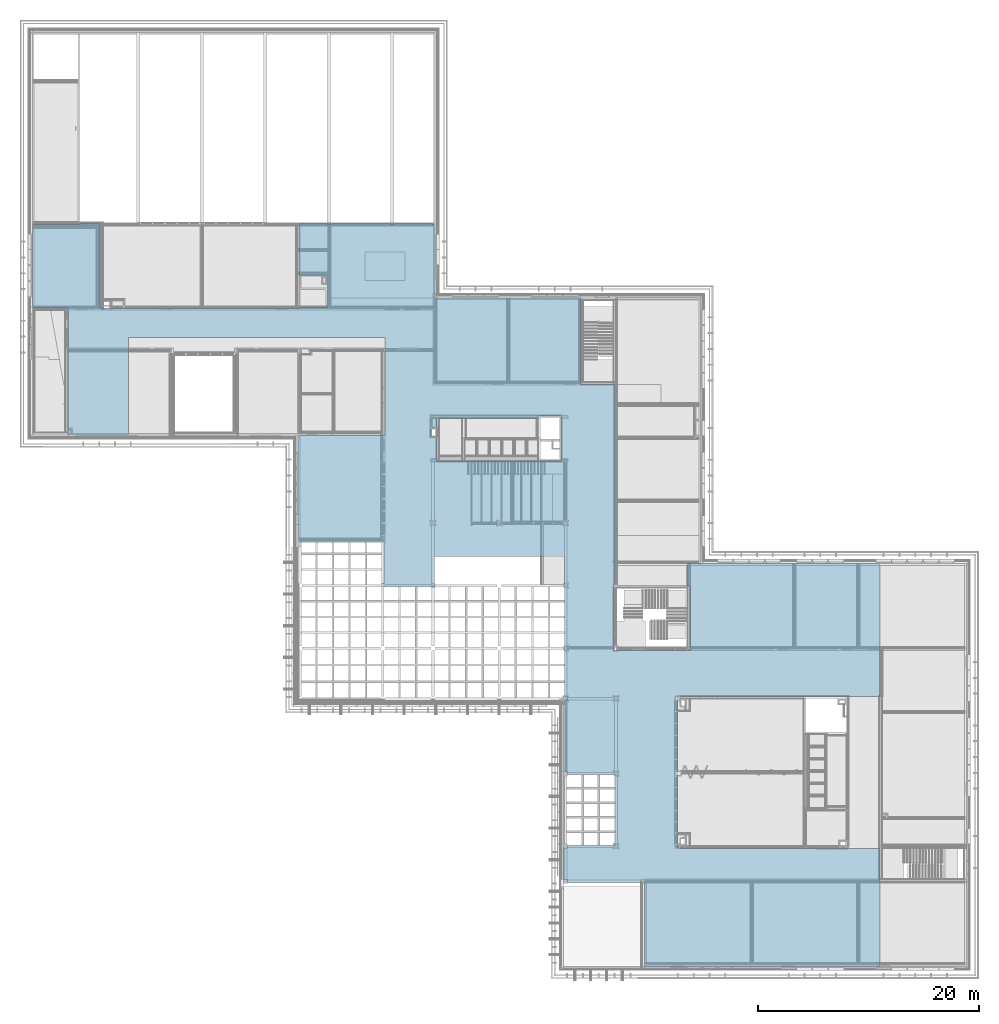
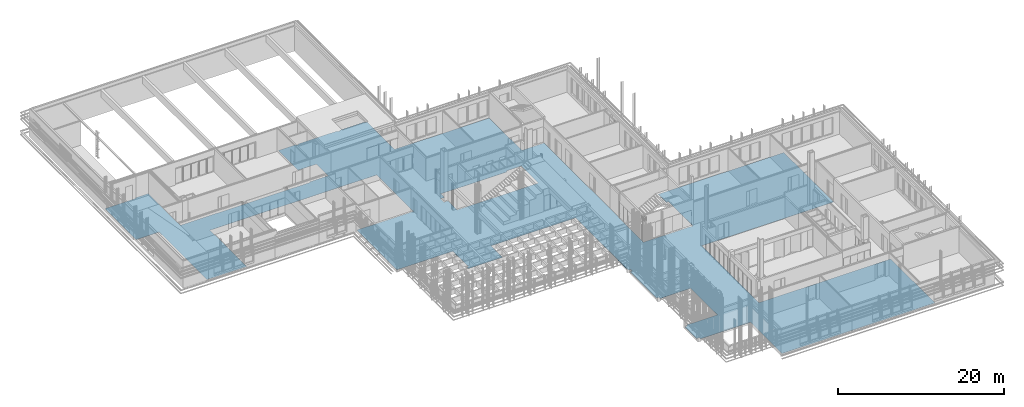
# One storey, part 91 of 139: 1 building element part, 7 openings, 1 element without a shape of its own.
"""IFC2X3 building model written with IfcOpenShell, lengths in millimetres."""

from ifc_helpers import new_model, entity, si_unit, converted_unit, derived_unit, money_unit, direction, frame, origin_with_axes, place, context, subcontext, project, spatial, faceted_brep, material, type_object, element, aggregate, save


model = new_model("IFC2X3")

# Units and contexts
model_context = context("Model", 3, precision=0.01, world=origin_with_axes(), true_north=direction((0.0, 1.0)))
body_context = subcontext(model_context, "Body", "Model", "MODEL_VIEW")
ifc_project = project(units=[si_unit("LENGTHUNIT", "METRE", prefix="MILLI"), si_unit("AREAUNIT", "SQUARE_METRE"), si_unit("VOLUMEUNIT", "CUBIC_METRE"), converted_unit("PLANEANGLEUNIT", "DEGREE", entity("IfcPlaneAngleMeasure", 0.0174532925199), si_unit("PLANEANGLEUNIT", "RADIAN"), dimensions=[0, 0, 0, 0, 0, 0, 0]), money_unit("EUR"), converted_unit("TIMEUNIT", "Year", entity("IfcTimeMeasure", 31556926.0), si_unit("TIMEUNIT", "SECOND"), dimensions=[0, 0, 1, 0, 0, 0, 0]), si_unit("MASSUNIT", "GRAM", prefix="KILO"), si_unit("THERMODYNAMICTEMPERATUREUNIT", "DEGREE_CELSIUS"), si_unit("LUMINOUSINTENSITYUNIT", "LUMEN"), si_unit("ENERGYUNIT", "JOULE", prefix="MEGA"), derived_unit("THERMALCONDUCTANCEUNIT", [(si_unit("POWERUNIT", "WATT"), 1), (si_unit("LENGTHUNIT", "METRE"), -1), (si_unit("THERMODYNAMICTEMPERATUREUNIT", "KELVIN"), -1)]), derived_unit("SPECIFICHEATCAPACITYUNIT", [(si_unit("ENERGYUNIT", "JOULE"), 1), (si_unit("MASSUNIT", "GRAM", prefix="KILO"), -1), (si_unit("THERMODYNAMICTEMPERATUREUNIT", "KELVIN"), -1)]), derived_unit("MASSDENSITYUNIT", [(si_unit("MASSUNIT", "GRAM", prefix="KILO"), 1), (si_unit("VOLUMEUNIT", "CUBIC_METRE"), -1)])], contexts=[model_context])

# Site, building, storey
site_placement = place(None, origin_with_axes())
site = spatial("IfcSite", under=ifc_project, at=site_placement, Name="Kolde pst 67a", CompositionType="ELEMENT")
building_placement = place(site_placement, origin_with_axes())
building = spatial("IfcBuilding", under=site, at=building_placement, Name="Riigigümnaasium", CompositionType="ELEMENT")
storey_placement = place(building_placement, frame((0.0, 0.0, 4600.0), z_axis=(0.0, 0.0, 1.0), x_axis=(1.0, 0.0, 0.0)))
storey = spatial("IfcBuildingStorey", under=building, at=storey_placement, Name="2. korrus", CompositionType="ELEMENT", Elevation=4600.0)

# Slab, openings, building element part
slab_type = type_object("IfcSlabType", Name="VL-CLT-28/1_PVC kate 430", PredefinedType="NOTDEFINED")
slab_placement = place(storey_placement, frame((39.9563582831, 59549.9979567, 0.0), z_axis=(0.0, 0.0, 1.0), x_axis=(1.0, 0.0, 0.0)))
slab = element("IfcSlab", 1, at=slab_placement, inside=storey, type_object=slab_type, Name="VAHELAGI", PredefinedType="NOTDEFINED")
opening_1_placement = place(slab_placement, frame((-39.9563582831, -59549.9979567, -4600.0), z_axis=(0.0, 0.0, 1.0), x_axis=(1.0, 0.0, 0.0)))
element("IfcOpeningElement", 2, at=opening_1_placement, cuts=slab, Name="Šaht", ObjectType="OPENING", context=body_context, shape_type="Brep", body=[
    faceted_brep([(45774.9854607, 45669.9999598, 12550.0), (45774.9854607, 47471.3382495, 12550.0), (45774.9854607, 47471.3382495, -50.0), (45774.9854607, 45669.9999598, -50.0), (47874.9854607, 45669.9999598, 12550.0), (47874.9854607, 47471.3382495, 12550.0), (47874.9854607, 47471.3382495, -50.0), (47874.9854607, 45669.9999598, -50.0)], [[[0, 1, 2, 3]], [[0, 4, 5, 1]], [[1, 5, 6, 2]], [[3, 2, 6, 7]], [[4, 0, 3, 7]], [[5, 4, 7, 6]]]),
])
opening_2_placement = place(slab_placement, frame((-39.9563582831, -59549.9979567, -4600.0), z_axis=(0.0, 0.0, 1.0), x_axis=(1.0, 0.0, 0.0)))
element("IfcOpeningElement", 3, at=opening_2_placement, cuts=slab, Name="Šaht", ObjectType="OPENING", context=body_context, shape_type="Brep", body=[
    faceted_brep([(45774.9854607, 47471.3382495, 12550.0), (45774.9854607, 49769.9999599, 12550.0), (45774.9854607, 49769.9999599, -50.0), (45774.9854607, 47471.3382495, -50.0), (47874.9854607, 47471.3382495, 12550.0), (47874.9854607, 49769.9999599, 12550.0), (47874.9854607, 49769.9999599, -50.0), (47874.9854607, 47471.3382495, -50.0)], [[[0, 1, 2, 3]], [[0, 4, 5, 1]], [[1, 5, 6, 2]], [[3, 2, 6, 7]], [[4, 0, 3, 7]], [[5, 4, 7, 6]]]),
])
opening_3_placement = place(slab_placement, frame((-39.9563582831, -59549.9979567, -4600.0), z_axis=(0.0, 0.0, 1.0), x_axis=(1.0, 0.0, 0.0)))
element("IfcOpeningElement", 4, at=opening_3_placement, cuts=slab, Name="Õhuruum", ObjectType="OPENING", context=body_context, shape_type="Brep", body=[
    faceted_brep([(47799.9854892, 10979.9999742, 5050.0), (47799.9854892, 17369.9999742, 5050.0), (47799.9854892, 17369.9999742, 3700.0), (47799.9854892, 10979.9999742, 3700.0), (52699.9854892, 10979.9999742, 5050.0), (52699.9854892, 17369.9999742, 5050.0), (52699.9854892, 17369.9999742, 3700.0), (52699.9854892, 10979.9999742, 3700.0)], [[[0, 1, 2, 3]], [[0, 4, 5, 1]], [[1, 5, 6, 2]], [[3, 2, 6, 7]], [[4, 0, 3, 7]], [[5, 4, 7, 6]]]),
])
opening_4_placement = place(slab_placement, frame((-39.9563582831, -59549.9979567, -4600.0), z_axis=(0.0, 0.0, 1.0), x_axis=(1.0, 0.0, 0.0)))
element("IfcOpeningElement", 5, at=opening_4_placement, cuts=slab, Name="Šaht", ObjectType="OPENING", context=body_context, shape_type="Brep", body=[
    faceted_brep([(32549.1365803, 31079.999196, -50.0), (32549.1365803, 31579.9999486, -50.0), (32549.1365803, 31579.9999486, 12550.0), (32549.1365803, 31079.999196, 12550.0), (31940.0027776, 31079.999196, -50.0), (31940.0027776, 31579.9999486, -50.0), (31940.0027776, 31579.9999486, 12550.0), (31940.0027776, 31079.999196, 12550.0)], [[[0, 1, 2, 3]], [[0, 4, 5, 1]], [[1, 5, 6, 2]], [[3, 2, 6, 7]], [[4, 0, 3, 7]], [[5, 4, 7, 6]]]),
])
opening_5_placement = place(slab_placement, frame((-39.9563582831, -59549.9979567, -4600.0), z_axis=(0.0, 0.0, 1.0), x_axis=(1.0, 0.0, 0.0)))
element("IfcOpeningElement", 6, at=opening_5_placement, cuts=slab, Name="Šaht", ObjectType="OPENING", context=body_context, shape_type="Brep", body=[
    faceted_brep([(36054.99923, 47865.0003336, 12673.7250489), (36054.99923, 48680.0003365, 12673.7250489), (36054.99923, 48680.0003365, -50.0), (36054.99923, 47865.0003336, -50.0), (36604.99923, 47865.0003336, 12673.7250489), (36604.99923, 48680.0003365, 12673.7250489), (36604.99923, 48680.0003365, -50.0), (36604.99923, 47865.0003336, -50.0)], [[[0, 1, 2, 3]], [[0, 4, 5, 1]], [[1, 5, 6, 2]], [[3, 2, 6, 7]], [[4, 0, 3, 7]], [[5, 4, 7, 6]]]),
])
opening_6_placement = place(slab_placement, frame((-39.9563582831, -59549.9979567, -4600.0), z_axis=(0.0, 0.0, 1.0), x_axis=(1.0, 0.0, 0.0)))
element("IfcOpeningElement", 7, at=opening_6_placement, cuts=slab, Name="Šaht", ObjectType="OPENING", context=body_context, shape_type="Brep", body=[
    faceted_brep([(24200.0027342, 59624.9979478, 5050.0), (24200.0027342, 62421.1829534, 5050.0), (24200.0027342, 62421.1829534, 3700.0), (24200.0027342, 59624.9979478, 3700.0), (26729.99923, 59624.9979478, 5050.0), (26729.99923, 62421.1829534, 5050.0), (26729.99923, 62421.1829534, 3700.0), (26729.99923, 59624.9979478, 3700.0)], [[[0, 1, 2, 3]], [[0, 4, 5, 1]], [[1, 5, 6, 2]], [[3, 2, 6, 7]], [[4, 0, 3, 7]], [[5, 4, 7, 6]]]),
])
opening_7_placement = place(slab_placement, frame((-39.9563582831, -59549.9979567, -4600.0), z_axis=(0.0, 0.0, 1.0), x_axis=(1.0, 0.0, 0.0)))
element("IfcOpeningElement", 8, at=opening_7_placement, cuts=slab, Name="Šaht", ObjectType="OPENING", context=body_context, shape_type="Brep", body=[
    faceted_brep([(42369.99923, 30974.9992219, -50.0), (42869.9999826, 30974.9992219, -50.0), (42869.9999826, 30974.9992219, 12550.0), (42369.99923, 30974.9992219, 12550.0), (42369.99923, 31579.999976, -50.0), (42869.9999826, 31579.999976, -50.0), (42869.9999826, 31579.999976, 12550.0), (42369.99923, 31579.999976, 12550.0)], [[[0, 1, 2, 3]], [[0, 4, 5, 1]], [[1, 5, 6, 2]], [[3, 2, 6, 7]], [[4, 0, 3, 7]], [[5, 4, 7, 6]]]),
])
ifc_material = material(Name="_SOOJUSTUS - vahtpolüstüreenplaadid EPS 80, survetugevus min 80kPa, soojuserijuhtivus λD<0,038 W/(mK)")
building_element_part_placement = place(slab_placement, origin_with_axes())
building_element_part = element("IfcBuildingElementPart", 9, at=building_element_part_placement, material=ifc_material, Name="_SOOJUSTUS - vahtpolüstüreenplaadid EPS 80, survetugevus min 80kPa, soojuserijuhtivus λD<0,038 W/(mK)", context=body_context, shape_type="Brep", body=[
    faceted_brep([(31780.0464203, -21190.01713, -130.0), (31542.0451688, -21190.01713, -130.0), (31542.0424096, -21190.01713, -149.364167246), (31542.0451688, -21190.01713, -150.0), (31780.0464203, -21190.01713, -150.0), (31542.0451963, -21150.0171312, -130.0), (31780.0464203, -24920.0028824, -130.0), (31542.042604, -24920.0028824, -130.0), (31542.0423908, -25229.9979567, -130.0), (36330.0428742, -25229.9979567, -130.0), (36330.0428742, -22459.0940537, -130.0), (48070.0039964, -22459.0596283, -130.0), (48070.0411517, -35130.001422, -130.0), (48380.0291024, -35130.001422, -130.0), (48380.0291024, -35510.001422, -130.0), (48070.0577274, -35510.0023309, -130.0), (48070.0200361, -41899.998263, -130.0), (48380.0242121, -41899.998263, -130.0), (48380.0242121, -42179.9979825, -130.0), (52660.0291309, -42179.9979825, -130.0), (52660.0291309, -48569.9979825, -130.0), (48380.0291408, -48569.9979825, -130.0), (48380.0291408, -48840.0359831, -130.0), (48000.0291384, -48840.0359831, -130.0), (48000.0291215, -51649.9979567, -130.0), (48380.0242229, -51649.9979567, -130.0), (48380.0242229, -51930.0079393, -130.0), (55330.024936, -51929.8434959, -130.0), (55330.0548244, -59509.9979567, -130.0), (76581.1490373, -59509.9979567, -130.0), (76579.986647, -48850.6574612, -130.0), (69910.0428548, -48850.036016, -130.0), (69910.0428548, -48860.036016, -130.0), (58289.9925184, -48860.036016, -130.0), (58289.9925184, -35109.997984, -130.0), (76610.0457048, -35109.997984, -130.0), (76610.0457048, -23109.998257, -130.0), (59150.0568692, -23109.998257, -130.0), (59150.0568692, -25099.997961, -130.0), (59440.0568692, -25099.997961, -130.0), (59440.0568692, -30959.998257, -130.0), (55335.0377659, -30959.998257, -130.0), (55335.0377659, -30929.9983007, -130.0), (52579.0377639, -30929.9983007, -130.0), (52579.0377639, -24909.9979838, -130.0), (52640.0377772, -24909.9979838, -130.0), (52640.0377641, -6939.99778428, -130.0), (49550.0536973, -6939.99777257, -130.0), (49550.0536971, 890.002227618, -130.0), (36400.0428717, 890.002227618, -130.0), (36400.0427438, 7539.99993167, -130.0), (36080.0427438, 7539.99993167, -130.0), (36080.0427438, 7659.99379268, -130.0), (32670.0436417, 7659.99436836, -130.0), (32670.0436417, 7539.98287716, -130.0), (32350.0436417, 7539.98287716, -130.0), (32350.0436417, 7659.99442238, -130.0), (26940.0436417, 7659.9953357, -130.0), (26940.0436417, 7539.98287716, -130.0), (26620.0436417, 7539.98287716, -130.0), (26620.0436417, 7659.99538972, -130.0), (24160.0463759, 7659.99580502, -130.0), (24160.0463759, 2871.18499669, -130.0), (26690.0428717, 2871.18499669, -130.0), (26690.0428717, 74.9999911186, -130.0), (24160.0463759, 74.9999911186, -130.0), (24160.0463759, -40.0001245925, -130.0), (6120.04156233, -40.0001245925, -130.0), (6120.04156233, 7659.99885053, -130.0), (4300.04314163, 7659.99915778, -130.0), (4300.04314163, 7539.99919467, -130.0), (4127.54314142, 7539.99919467, -130.0), (0.0, 7539.99919465, -130.0), (0.0, 0.0, -130.0), (3209.98406573, -8.63914806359e-06, -130.0), (3209.98405866, -11509.9854449, -130.0), (8715.03681619, -11509.9854449, -130.0), (8715.03681619, -2710.46285648, -130.0), (31850.0464212, -2710.46285648, -130.0), (31850.0464212, -11510.0171259, -130.0), (24000.0463759, -11510.0171259, -130.0), (24000.0463759, -21150.0171229, -130.0), (47835.0291024, -9779.99799688, -130.0), (47835.0291024, -13879.9979969, -130.0), (45735.0291024, -13879.9979969, -130.0), (36565.0428717, -13879.9979969, -130.0), (36565.0428717, -11684.9976232, -130.0), (36015.0428717, -11684.9976232, -130.0), (36015.0428717, -10869.9976202, -130.0), (36565.0428717, -10869.9976202, -130.0), (36565.0428717, -9994.99799688, -130.0), (45735.0291024, -9994.99799688, -130.0), (45735.0291024, -9779.99799688, -130.0), (31542.0451963, -21150.0171312, -150.0), (31542.042604, -24920.0028824, -150.0), (31780.0464203, -24920.0028824, -150.0), (24000.0463759, -21150.0171229, -150.0), (24000.0463759, -11510.0171259, -150.0), (31850.0464212, -11510.0171259, -150.0), (31850.0464212, -2710.46285648, -150.0), (8715.03681619, -2710.46285648, -150.0), (8715.03681619, -11509.9854449, -150.0), (3209.98405866, -11509.9854449, -150.0), (3209.98406573, -8.63914806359e-06, -150.0), (0.0, 0.0, -150.0), (0.0, 7539.99919465, -150.0), (4127.54314142, 7539.99919467, -150.0), (4300.04314163, 7539.99919467, -150.0), (4300.04314163, 7659.99915778, -150.0), (6120.04156233, 7659.99885053, -150.0), (6120.04156233, -40.0001245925, -150.0), (24160.0463759, -40.0001245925, -150.0), (24160.0463759, 74.9999911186, -150.0), (26690.0428717, 74.9999911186, -150.0), (26690.0428717, 2871.18499669, -150.0), (24160.0463759, 2871.18499669, -150.0), (24160.0463759, 7659.99580502, -150.0), (26620.0436417, 7659.99538972, -150.0), (26620.0436417, 7539.98287716, -150.0), (26940.0436417, 7539.98287716, -150.0), (26940.0436417, 7659.9953357, -150.0), (32350.0436417, 7659.99442238, -150.0), (32350.0436417, 7539.98287716, -150.0), (32670.0436417, 7539.98287716, -150.0), (32670.0436417, 7659.99436836, -150.0), (36080.0427438, 7659.99379268, -150.0), (36080.0427438, 7539.99993167, -150.0), (36400.0427438, 7539.99993167, -150.0), (36400.0428717, 890.002227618, -150.0), (49550.0536971, 890.002227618, -150.0), (49550.0536973, -6939.99777257, -150.0), (52640.0377641, -6939.99778428, -150.0), (52640.0377772, -24909.9979838, -150.0), (52579.0377639, -24909.9979838, -150.0), (52579.0377639, -30929.9983007, -150.0), (55335.0377659, -30929.9983007, -150.0), (55335.0377659, -30959.998257, -150.0), (59440.0568692, -30959.998257, -150.0), (59440.0568692, -25099.997961, -150.0), (59150.0568692, -25099.997961, -150.0), (59150.0568692, -23109.998257, -150.0), (76610.0457048, -23109.998257, -150.0), (76610.0457048, -35109.997984, -150.0), (58289.9925184, -35109.997984, -150.0), (58289.9925184, -48860.036016, -150.0), (69910.0428548, -48860.036016, -150.0), (69910.0428548, -48850.036016, -150.0), (76579.986647, -48850.6574612, -150.0), (76581.1490373, -59509.9979567, -150.0), (55330.0548244, -59509.9979567, -150.0), (55330.024936, -51929.8434959, -150.0), (48380.0242229, -51930.0079393, -150.0), (48380.0242229, -51649.9979567, -150.0), (48000.0291215, -51649.9979567, -150.0), (48000.0291384, -48840.0359831, -150.0), (48380.0291408, -48840.0359831, -150.0), (48380.0291408, -48569.9979825, -150.0), (52660.0291309, -48569.9979825, -150.0), (52660.0291309, -42179.9979825, -150.0), (48380.0242121, -42179.9979825, -150.0), (48380.0242121, -41899.998263, -150.0), (48070.0200361, -41899.998263, -150.0), (48070.0577274, -35510.0023309, -150.0), (48380.0291024, -35510.001422, -150.0), (48380.0291024, -35130.001422, -150.0), (48070.0411517, -35130.001422, -150.0), (48070.0039964, -22459.0596283, -150.0), (36330.0428742, -22459.0940537, -150.0), (36330.0428742, -25229.9979567, -150.0), (31542.0423908, -25229.9979567, -150.0), (45735.0291024, -9779.99799688, -150.0), (45735.0291024, -9994.99799688, -150.0), (36565.0428717, -9994.99799688, -150.0), (36565.0428717, -10869.9976202, -150.0), (36015.0428717, -10869.9976202, -150.0), (36015.0428717, -11684.9976232, -150.0), (36565.0428717, -11684.9976232, -150.0), (36565.0428717, -13879.9979969, -150.0), (45735.0291024, -13879.9979969, -150.0), (47835.0291024, -13879.9979969, -150.0), (47835.0291024, -9779.99799688, -150.0)], [[[0, 1, 2, 3, 4]], [[5, 1, 0, 6, 7, 8, 9, 10, 11, 12, 13, 14, 15, 16, 17, 18, 19, 20, 21, 22, 23, 24, 25, 26, 27, 28, 29, 30, 31, 32, 33, 34, 35, 36, 37, 38, 39, 40, 41, 42, 43, 44, 45, 46, 47, 48, 49, 50, 51, 52, 53, 54, 55, 56, 57, 58, 59, 60, 61, 62, 63, 64, 65, 66, 67, 68, 69, 70, 71, 72, 73, 74, 75, 76, 77, 78, 79, 80, 81], [82, 83, 84, 85, 86, 87, 88, 89, 90, 91, 92]], [[5, 93, 3, 2, 1]], [[94, 95, 4, 3, 93, 96, 97, 98, 99, 100, 101, 102, 103, 104, 105, 106, 107, 108, 109, 110, 111, 112, 113, 114, 115, 116, 117, 118, 119, 120, 121, 122, 123, 124, 125, 126, 127, 128, 129, 130, 131, 132, 133, 134, 135, 136, 137, 138, 139, 140, 141, 142, 143, 144, 145, 146, 147, 148, 149, 150, 151, 152, 153, 154, 155, 156, 157, 158, 159, 160, 161, 162, 163, 164, 165, 166, 167, 168, 169], [170, 171, 172, 173, 174, 175, 176, 177, 178, 179, 180]], [[95, 6, 0, 4]], [[7, 6, 95, 94]], [[8, 7, 94, 169]], [[169, 168, 9, 8]], [[168, 167, 10, 9]], [[167, 166, 11, 10]], [[166, 165, 12, 11]], [[165, 164, 13, 12]], [[164, 163, 14, 13]], [[163, 162, 15, 14]], [[162, 161, 16, 15]], [[161, 160, 17, 16]], [[159, 18, 17, 160]], [[19, 18, 159, 158]], [[20, 19, 158, 157]], [[21, 20, 157, 156]], [[21, 156, 155, 22]], [[155, 154, 23, 22]], [[154, 153, 24, 23]], [[153, 152, 25, 24]], [[152, 151, 26, 25]], [[151, 150, 27, 26]], [[150, 149, 28, 27]], [[149, 148, 29, 28]], [[148, 147, 30, 29]], [[147, 146, 31, 30]], [[146, 145, 32, 31]], [[145, 144, 33, 32]], [[144, 143, 34, 33]], [[143, 142, 35, 34]], [[142, 141, 36, 35]], [[141, 140, 37, 36]], [[140, 139, 38, 37]], [[139, 138, 39, 38]], [[138, 137, 40, 39]], [[137, 136, 41, 40]], [[136, 135, 42, 41]], [[135, 134, 43, 42]], [[134, 133, 44, 43]], [[133, 132, 45, 44]], [[132, 131, 46, 45]], [[131, 130, 47, 46]], [[130, 129, 48, 47]], [[129, 128, 49, 48]], [[128, 127, 50, 49]], [[126, 51, 50, 127]], [[126, 125, 52, 51]], [[53, 52, 125, 124]], [[53, 124, 123, 54]], [[54, 123, 122, 55]], [[56, 55, 122, 121]], [[56, 121, 120, 57]], [[120, 119, 58, 57]], [[119, 118, 59, 58]], [[59, 118, 117, 60]], [[116, 61, 60, 117]], [[115, 62, 61, 116]], [[63, 62, 115, 114]], [[64, 63, 114, 113]], [[65, 64, 113, 112]], [[65, 112, 111, 66]], [[111, 110, 67, 66]], [[110, 109, 68, 67]], [[109, 108, 69, 68]], [[107, 70, 69, 108]], [[106, 71, 70, 107]], [[72, 71, 106, 105]], [[105, 104, 73, 72]], [[104, 103, 74, 73]], [[103, 102, 75, 74]], [[102, 101, 76, 75]], [[101, 100, 77, 76]], [[100, 99, 78, 77]], [[99, 98, 79, 78]], [[98, 97, 80, 79]], [[97, 96, 81, 80]], [[96, 93, 5, 81]], [[82, 180, 179, 83]], [[84, 83, 179, 178]], [[84, 178, 177, 85]], [[176, 86, 85, 177]], [[87, 86, 176, 175]], [[88, 87, 175, 174]], [[173, 89, 88, 174]], [[89, 173, 172, 90]], [[171, 91, 90, 172]], [[92, 91, 171, 170]], [[82, 92, 170, 180]]]),
])
aggregate(slab, [building_element_part])

save(model, "model.ifc")
